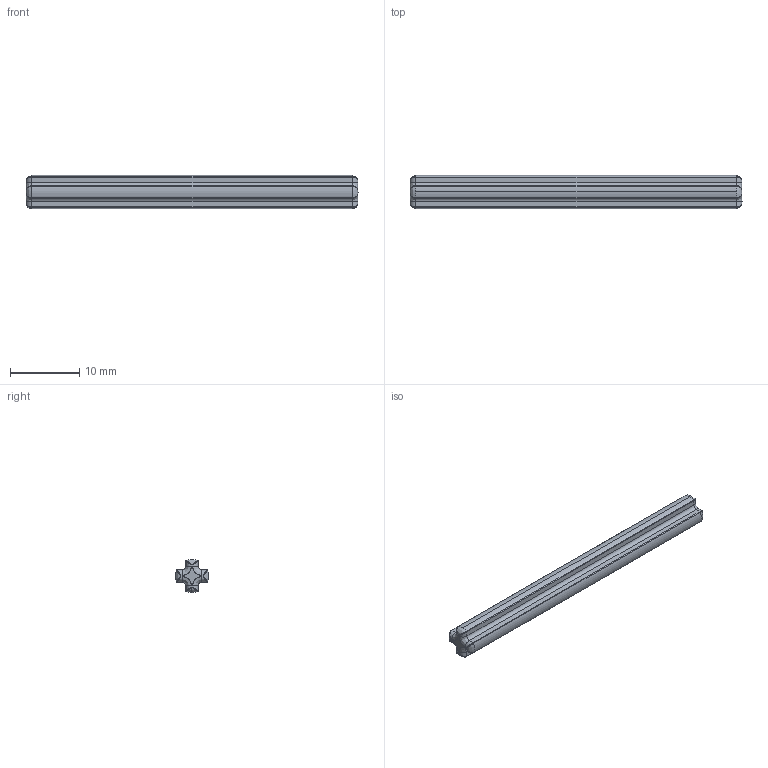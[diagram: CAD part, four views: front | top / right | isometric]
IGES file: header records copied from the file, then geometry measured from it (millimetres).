
Start section: SolidWorks IGES file using analytic representation for surfaces
Global section: file name: C:\Users\PC\Desktop\Lego Technik Gear and Axles\Axles\STEP, IGES, STL\3706 Black Technic Axle 6.IGS; native system: SolidWorks 2014; preprocessor: SolidWorks 2014; author: PC; date: 150218.233330; units: millimetre
Bounding box: 48 x 4.79 x 4.8 mm (x, y, z)
Surface area: 830.6 mm2 (no closed solid volume)
Topology: 0 solids, 0 shells, 77 faces, 490 edges, 474 vertices
Faces by surface type: bspline 44, revolution 33
